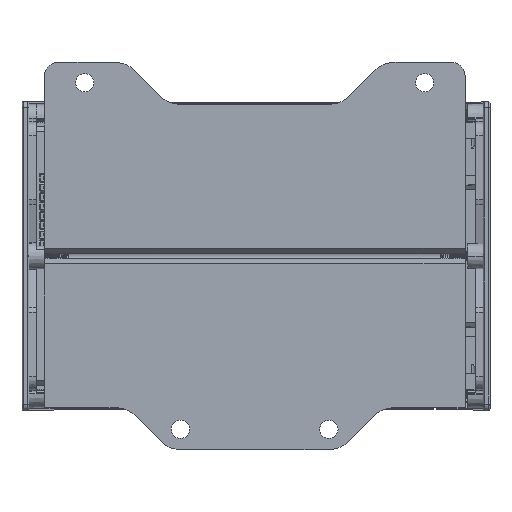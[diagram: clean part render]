
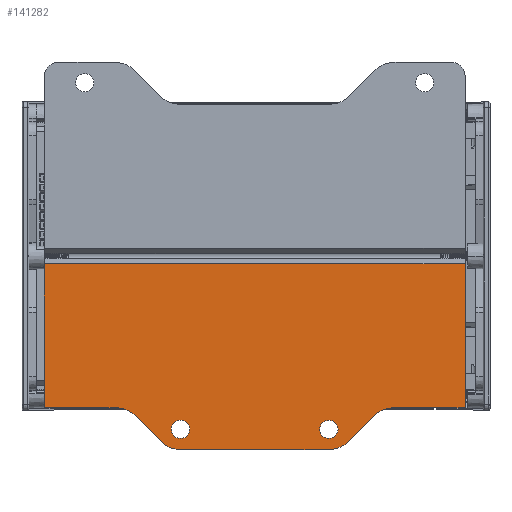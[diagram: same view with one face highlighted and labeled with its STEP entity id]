
A CAD part, front view. The second image highlights one B-rep face of the part: STEP entity #141282.
In plain terms, the highlighted planar face has unit normal (0, -1, 0).
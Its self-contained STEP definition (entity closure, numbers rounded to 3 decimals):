
#2278 = VERTEX_POINT ( 'NONE', #123848 ) ;
#2960 = EDGE_CURVE ( 'NONE', #345713, #311084, #65969, .T. ) ;
#7099 = VECTOR ( 'NONE', #152736, 1000. ) ;
#8205 = CARTESIAN_POINT ( 'NONE',  ( 0.008, -10.741, -56.265 ) ) ;
#8565 = CARTESIAN_POINT ( 'NONE',  ( 46.258, -10.741, -71.765 ) ) ;
#9584 = EDGE_CURVE ( 'NONE', #85862, #71127, #359586, .T. ) ;
#10711 = DIRECTION ( 'NONE',  ( 0., 0., 1. ) ) ;
#12357 = CARTESIAN_POINT ( 'NONE',  ( 105.508, -10.741, -67.665 ) ) ;
#16520 = DIRECTION ( 'NONE',  ( 0., 0., 1. ) ) ;
#16519 = CIRCLE ( 'NONE', #150995, 10. ) ;
#17579 = ORIENTED_EDGE ( 'NONE', *, *, #52940, .T. ) ;
#18443 = LINE ( 'NONE', #219248, #332420 ) ;
#19349 = EDGE_CURVE ( 'NONE', #275307, #321501, #345223, .T. ) ;
#19785 = DIRECTION ( 'NONE',  ( -1., 0., 0. ) ) ;
#25733 = AXIS2_PLACEMENT_3D ( 'NONE', #197556, #178248, #235703 ) ;
#35008 = DIRECTION ( 'NONE',  ( 0., 0., 1. ) ) ;
#37802 = ORIENTED_EDGE ( 'NONE', *, *, #9584, .T. ) ;
#40003 = ORIENTED_EDGE ( 'NONE', *, *, #152257, .T. ) ;
#42271 = CARTESIAN_POINT ( 'NONE',  ( 112.687, -10.741, -68.836 ) ) ;
#47236 = ORIENTED_EDGE ( 'NONE', *, *, #2960, .T. ) ;
#52940 = EDGE_CURVE ( 'NONE', #278138, #2278, #265647, .T. ) ;
#58010 = VECTOR ( 'NONE', #227135, 1000. ) ;
#59894 = AXIS2_PLACEMENT_3D ( 'NONE', #366689, #167351, #16520 ) ;
#63616 = CARTESIAN_POINT ( 'NONE',  ( 50.508, -10.741, -60.865 ) ) ;
#65969 = LINE ( 'NONE', #117702, #137226 ) ;
#66406 = EDGE_CURVE ( 'NONE', #232814, #331853, #216820, .T. ) ;
#68101 = DIRECTION ( 'NONE',  ( 0., -1., 0. ) ) ;
#71127 = VERTEX_POINT ( 'NONE', #355472 ) ;
#75567 = EDGE_CURVE ( 'NONE', #296515, #298861, #135084, .T. ) ;
#75871 = CARTESIAN_POINT ( 'NONE',  ( 125.258, -10.741, -56.265 ) ) ;
#79056 = CIRCLE ( 'NONE', #292813, 3.4 ) ;
#79502 = CARTESIAN_POINT ( 'NONE',  ( 156.008, -10.741, 56.265 ) ) ;
#85862 = VERTEX_POINT ( 'NONE', #12357 ) ;
#89556 = CARTESIAN_POINT ( 'NONE',  ( 50.401, -10.741, -61.765 ) ) ;
#94352 = VECTOR ( 'NONE', #241915, 1000. ) ;
#95170 = DIRECTION ( 'NONE',  ( 0., 0., 1. ) ) ;
#97361 = DIRECTION ( 'NONE',  ( 0., 1., 0. ) ) ;
#97642 = DIRECTION ( 'NONE',  ( 0., 0., 1. ) ) ;
#102015 = CARTESIAN_POINT ( 'NONE',  ( 156.008, -10.741, -56.265 ) ) ;
#105408 = DIRECTION ( 'NONE',  ( -1., 0., 0. ) ) ;
#105570 = EDGE_CURVE ( 'NONE', #322805, #155285, #190545, .T. ) ;
#110376 = LINE ( 'NONE', #349633, #58010 ) ;
#115260 = EDGE_CURVE ( 'NONE', #321501, #275307, #79056, .T. ) ;
#116626 = EDGE_CURVE ( 'NONE', #345713, #264799, #110376, .T. ) ;
#117264 = DIRECTION ( 'NONE',  ( 0., 1., 0. ) ) ;
#117702 = CARTESIAN_POINT ( 'NONE',  ( 0.008, -10.741, 56.265 ) ) ;
#123848 = CARTESIAN_POINT ( 'NONE',  ( 50.401, -10.741, -71.765 ) ) ;
#127210 = AXIS2_PLACEMENT_3D ( 'NONE', #262782, #117264, #35008 ) ;
#127909 = DIRECTION ( 'NONE',  ( 0., 0., 1. ) ) ;
#129333 = DIRECTION ( 'NONE',  ( 0., 0., -1. ) ) ;
#134664 = VERTEX_POINT ( 'NONE', #290184 ) ;
#135084 = LINE ( 'NONE', #75871, #177596 ) ;
#136773 = FACE_OUTER_BOUND ( 'NONE', #227594, .T. ) ;
#137226 = VECTOR ( 'NONE', #234371, 1000. ) ;
#141282 = ADVANCED_FACE ( 'NONE', ( #219173, #224840, #136773 ), #335981, .F. ) ;
#142927 = DIRECTION ( 'NONE',  ( 0., 0., 1. ) ) ;
#143740 = CARTESIAN_POINT ( 'NONE',  ( 156.008, -10.741, -56.265 ) ) ;
#145519 = AXIS2_PLACEMENT_3D ( 'NONE', #242732, #97361, #127909 ) ;
#145660 = ORIENTED_EDGE ( 'NONE', *, *, #283775, .F. ) ;
#148761 = DIRECTION ( 'NONE',  ( 0., -1., 0. ) ) ;
#150995 = AXIS2_PLACEMENT_3D ( 'NONE', #355297, #68101, #10711 ) ;
#152257 = EDGE_CURVE ( 'NONE', #71127, #85862, #224749, .T. ) ;
#152736 = DIRECTION ( 'NONE',  ( -0.707, 0., 0.707 ) ) ;
#152741 = EDGE_LOOP ( 'NONE', ( #320152, #310479 ) ) ;
#153802 = ORIENTED_EDGE ( 'NONE', *, *, #75567, .F. ) ;
#154935 = CARTESIAN_POINT ( 'NONE',  ( 50.508, -10.741, -64.265 ) ) ;
#155285 = VERTEX_POINT ( 'NONE', #360814 ) ;
#155652 = CARTESIAN_POINT ( 'NONE',  ( 0.008, -10.741, -2.887 ) ) ;
#161596 = ORIENTED_EDGE ( 'NONE', *, *, #376238, .T. ) ;
#167351 = DIRECTION ( 'NONE',  ( 0., 1., 0. ) ) ;
#177596 = VECTOR ( 'NONE', #217428, 1000. ) ;
#178248 = DIRECTION ( 'NONE',  ( 0., 1., 0. ) ) ;
#180042 = AXIS2_PLACEMENT_3D ( 'NONE', #317158, #204119, #142927 ) ;
#184358 = ORIENTED_EDGE ( 'NONE', *, *, #226521, .F. ) ;
#190545 = CIRCLE ( 'NONE', #25733, 10. ) ;
#195110 = EDGE_CURVE ( 'NONE', #134664, #298861, #16519, .T. ) ;
#196071 = DIRECTION ( 'NONE',  ( 0., 0., 1. ) ) ;
#197556 = CARTESIAN_POINT ( 'NONE',  ( 26.616, -10.741, -66.265 ) ) ;
#197637 = ORIENTED_EDGE ( 'NONE', *, *, #105570, .T. ) ;
#204119 = DIRECTION ( 'NONE',  ( 0., 1., 0. ) ) ;
#207737 = CARTESIAN_POINT ( 'NONE',  ( 122.329, -10.741, -59.194 ) ) ;
#210632 = CARTESIAN_POINT ( 'NONE',  ( 26.616, -10.741, -56.265 ) ) ;
#216820 = LINE ( 'NONE', #102015, #223993 ) ;
#217281 = DIRECTION ( 'NONE',  ( 0., 1., 0. ) ) ;
#217428 = DIRECTION ( 'NONE',  ( -0.707, 0., -0.707 ) ) ;
#219173 = FACE_BOUND ( 'NONE', #234910, .T. ) ;
#219248 = CARTESIAN_POINT ( 'NONE',  ( 156.008, -10.741, 56.265 ) ) ;
#222771 = CARTESIAN_POINT ( 'NONE',  ( 50.508, -10.741, -67.665 ) ) ;
#223993 = VECTOR ( 'NONE', #19785, 1000. ) ;
#224749 = CIRCLE ( 'NONE', #59894, 3.4 ) ;
#224840 = FACE_BOUND ( 'NONE', #152741, .T. ) ;
#226521 = EDGE_CURVE ( 'NONE', #278138, #155285, #325161, .T. ) ;
#227135 = DIRECTION ( 'NONE',  ( 1., 0., 0. ) ) ;
#227594 = EDGE_LOOP ( 'NONE', ( #236798, #296094, #153802, #161596, #279276, #145660, #257909, #47236, #253966, #197637, #184358, #17579 ) ) ;
#232814 = VERTEX_POINT ( 'NONE', #143740 ) ;
#234371 = DIRECTION ( 'NONE',  ( 0., 0., -1. ) ) ;
#234910 = EDGE_LOOP ( 'NONE', ( #40003, #37802 ) ) ;
#235703 = DIRECTION ( 'NONE',  ( 0., 0., 1. ) ) ;
#236798 = ORIENTED_EDGE ( 'NONE', *, *, #366162, .F. ) ;
#237329 = DIRECTION ( 'NONE',  ( 0., 1., 0. ) ) ;
#241915 = DIRECTION ( 'NONE',  ( -1., 0., 0. ) ) ;
#242732 = CARTESIAN_POINT ( 'NONE',  ( 129.401, -10.741, -66.265 ) ) ;
#247236 = AXIS2_PLACEMENT_3D ( 'NONE', #89556, #148761, #95170 ) ;
#253966 = ORIENTED_EDGE ( 'NONE', *, *, #289697, .F. ) ;
#257909 = ORIENTED_EDGE ( 'NONE', *, *, #116626, .F. ) ;
#262782 = CARTESIAN_POINT ( 'NONE',  ( 105.508, -10.741, -64.265 ) ) ;
#264799 = VERTEX_POINT ( 'NONE', #313019 ) ;
#265647 = CIRCLE ( 'NONE', #247236, 10. ) ;
#275307 = VERTEX_POINT ( 'NONE', #63616 ) ;
#278138 = VERTEX_POINT ( 'NONE', #331566 ) ;
#279276 = ORIENTED_EDGE ( 'NONE', *, *, #66406, .F. ) ;
#283775 = EDGE_CURVE ( 'NONE', #264799, #232814, #18443, .T. ) ;
#289697 = EDGE_CURVE ( 'NONE', #322805, #311084, #336996, .T. ) ;
#290184 = CARTESIAN_POINT ( 'NONE',  ( 105.616, -10.741, -71.765 ) ) ;
#291205 = VECTOR ( 'NONE', #105408, 1000. ) ;
#292813 = AXIS2_PLACEMENT_3D ( 'NONE', #154935, #237329, #97642 ) ;
#296094 = ORIENTED_EDGE ( 'NONE', *, *, #195110, .T. ) ;
#296515 = VERTEX_POINT ( 'NONE', #207737 ) ;
#298193 = CIRCLE ( 'NONE', #145519, 10. ) ;
#298861 = VERTEX_POINT ( 'NONE', #42271 ) ;
#310479 = ORIENTED_EDGE ( 'NONE', *, *, #115260, .T. ) ;
#311084 = VERTEX_POINT ( 'NONE', #8205 ) ;
#313019 = CARTESIAN_POINT ( 'NONE',  ( 156.008, -10.741, -2.887 ) ) ;
#317158 = CARTESIAN_POINT ( 'NONE',  ( 50.508, -10.741, -64.265 ) ) ;
#318844 = AXIS2_PLACEMENT_3D ( 'NONE', #79502, #217281, #196071 ) ;
#320152 = ORIENTED_EDGE ( 'NONE', *, *, #19349, .T. ) ;
#321501 = VERTEX_POINT ( 'NONE', #222771 ) ;
#322805 = VERTEX_POINT ( 'NONE', #210632 ) ;
#325161 = LINE ( 'NONE', #350129, #7099 ) ;
#331566 = CARTESIAN_POINT ( 'NONE',  ( 43.329, -10.741, -68.836 ) ) ;
#331853 = VERTEX_POINT ( 'NONE', #374843 ) ;
#331897 = LINE ( 'NONE', #8565, #94352 ) ;
#332420 = VECTOR ( 'NONE', #129333, 1000. ) ;
#335981 = PLANE ( 'NONE',  #318844 ) ;
#336996 = LINE ( 'NONE', #367672, #291205 ) ;
#345223 = CIRCLE ( 'NONE', #180042, 3.4 ) ;
#345713 = VERTEX_POINT ( 'NONE', #155652 ) ;
#349633 = CARTESIAN_POINT ( 'NONE',  ( 156.008, -10.741, -2.887 ) ) ;
#350129 = CARTESIAN_POINT ( 'NONE',  ( 30.758, -10.741, -56.265 ) ) ;
#355297 = CARTESIAN_POINT ( 'NONE',  ( 105.616, -10.741, -61.765 ) ) ;
#355472 = CARTESIAN_POINT ( 'NONE',  ( 105.508, -10.741, -60.865 ) ) ;
#359586 = CIRCLE ( 'NONE', #127210, 3.4 ) ;
#360814 = CARTESIAN_POINT ( 'NONE',  ( 33.687, -10.741, -59.194 ) ) ;
#366162 = EDGE_CURVE ( 'NONE', #134664, #2278, #331897, .T. ) ;
#366689 = CARTESIAN_POINT ( 'NONE',  ( 105.508, -10.741, -64.265 ) ) ;
#367672 = CARTESIAN_POINT ( 'NONE',  ( 0.008, -10.741, -56.265 ) ) ;
#374843 = CARTESIAN_POINT ( 'NONE',  ( 129.401, -10.741, -56.265 ) ) ;
#376238 = EDGE_CURVE ( 'NONE', #296515, #331853, #298193, .T. ) ;
